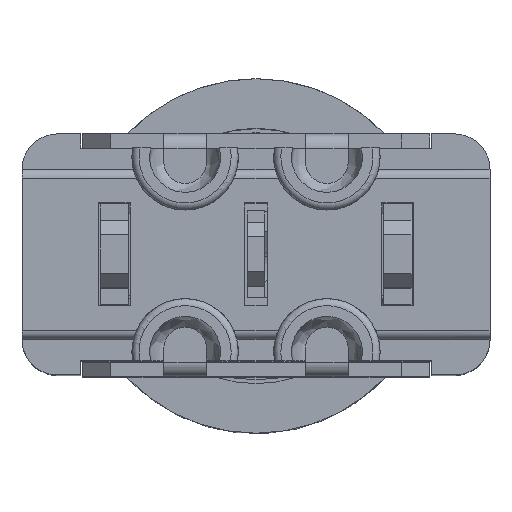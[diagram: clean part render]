
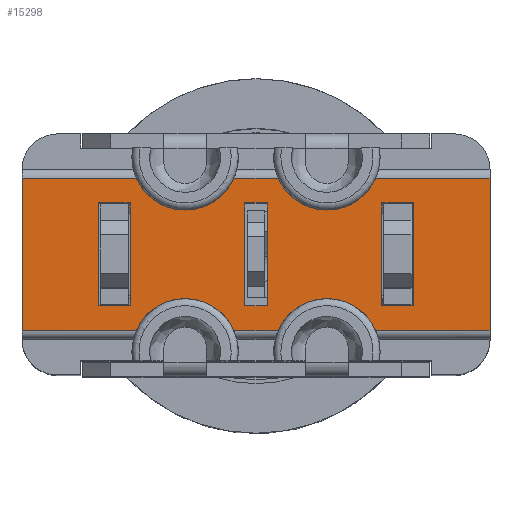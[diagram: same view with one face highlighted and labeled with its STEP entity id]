
A CAD part, top view. The second image highlights one B-rep face of the part: STEP entity #15298.
In plain terms, the highlighted planar face has unit normal (0, 0, 1).
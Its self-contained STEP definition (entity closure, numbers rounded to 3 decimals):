
#4874=DIRECTION('',(-1.,0.,0.));
#4875=VECTOR('',#4874,3.225);
#4876=CARTESIAN_POINT('',(3.225,-1.25,10.95));
#4877=LINE('',#4876,#4875);
#4878=CARTESIAN_POINT('',(4.6,-0.65,10.95));
#4879=DIRECTION('',(0.,0.,1.));
#4880=DIRECTION('',(-0.917,-0.4,0.));
#4881=AXIS2_PLACEMENT_3D('',#4878,#4879,#4880);
#4883=DIRECTION('',(-1.,0.,0.));
#4884=VECTOR('',#4883,1.25);
#4885=CARTESIAN_POINT('',(7.225,-1.25,10.95));
#4886=LINE('',#4885,#4884);
#4887=CARTESIAN_POINT('',(8.6,-0.65,10.95));
#4888=DIRECTION('',(0.,0.,1.));
#4889=DIRECTION('',(-0.917,-0.4,0.));
#4890=AXIS2_PLACEMENT_3D('',#4887,#4888,#4889);
#4892=DIRECTION('',(-1.,0.,0.));
#4893=VECTOR('',#4892,3.225);
#4894=CARTESIAN_POINT('',(13.2,-1.25,10.95));
#4895=LINE('',#4894,#4893);
#4896=DIRECTION('',(0.,1.,0.));
#4897=VECTOR('',#4896,4.3);
#4898=CARTESIAN_POINT('',(13.2,-5.55,10.95));
#4899=LINE('',#4898,#4897);
#4900=DIRECTION('',(1.,0.,0.));
#4901=VECTOR('',#4900,3.225);
#4902=CARTESIAN_POINT('',(9.975,-5.55,10.95));
#4903=LINE('',#4902,#4901);
#4904=CARTESIAN_POINT('',(8.6,-6.15,10.95));
#4905=DIRECTION('',(0.,0.,1.));
#4906=DIRECTION('',(0.917,0.4,0.));
#4907=AXIS2_PLACEMENT_3D('',#4904,#4905,#4906);
#4909=DIRECTION('',(1.,0.,0.));
#4910=VECTOR('',#4909,1.25);
#4911=CARTESIAN_POINT('',(5.975,-5.55,10.95));
#4912=LINE('',#4911,#4910);
#4913=CARTESIAN_POINT('',(4.6,-6.15,10.95));
#4914=DIRECTION('',(0.,0.,1.));
#4915=DIRECTION('',(0.917,0.4,0.));
#4916=AXIS2_PLACEMENT_3D('',#4913,#4914,#4915);
#4918=DIRECTION('',(1.,0.,0.));
#4919=VECTOR('',#4918,3.225);
#4920=CARTESIAN_POINT('',(0.,-5.55,10.95));
#4921=LINE('',#4920,#4919);
#4922=DIRECTION('',(0.,-1.,0.));
#4923=VECTOR('',#4922,4.3);
#4924=CARTESIAN_POINT('',(0.,-1.25,10.95));
#4925=LINE('',#4924,#4923);
#4926=DIRECTION('',(1.,0.,0.));
#4927=VECTOR('',#4926,0.9);
#4928=CARTESIAN_POINT('',(2.15,-4.85,10.95));
#4929=LINE('',#4928,#4927);
#4930=DIRECTION('',(0.,1.,0.));
#4931=VECTOR('',#4930,2.9);
#4932=CARTESIAN_POINT('',(3.05,-4.85,10.95));
#4933=LINE('',#4932,#4931);
#4934=DIRECTION('',(-1.,0.,0.));
#4935=VECTOR('',#4934,0.9);
#4936=CARTESIAN_POINT('',(3.05,-1.95,10.95));
#4937=LINE('',#4936,#4935);
#4938=DIRECTION('',(0.,-1.,0.));
#4939=VECTOR('',#4938,2.9);
#4940=CARTESIAN_POINT('',(2.15,-1.95,10.95));
#4941=LINE('',#4940,#4939);
#4942=DIRECTION('',(1.,0.,0.));
#4943=VECTOR('',#4942,0.63);
#4944=CARTESIAN_POINT('',(6.285,-4.85,10.95));
#4945=LINE('',#4944,#4943);
#4946=DIRECTION('',(0.,1.,0.));
#4947=VECTOR('',#4946,2.9);
#4948=CARTESIAN_POINT('',(6.915,-4.85,10.95));
#4949=LINE('',#4948,#4947);
#4950=DIRECTION('',(-1.,0.,0.));
#4951=VECTOR('',#4950,0.63);
#4952=CARTESIAN_POINT('',(6.915,-1.95,10.95));
#4953=LINE('',#4952,#4951);
#4954=DIRECTION('',(0.,-1.,0.));
#4955=VECTOR('',#4954,2.9);
#4956=CARTESIAN_POINT('',(6.285,-1.95,10.95));
#4957=LINE('',#4956,#4955);
#4958=DIRECTION('',(1.,0.,0.));
#4959=VECTOR('',#4958,0.9);
#4960=CARTESIAN_POINT('',(10.15,-4.85,10.95));
#4961=LINE('',#4960,#4959);
#4962=DIRECTION('',(0.,1.,0.));
#4963=VECTOR('',#4962,2.9);
#4964=CARTESIAN_POINT('',(11.05,-4.85,10.95));
#4965=LINE('',#4964,#4963);
#4966=DIRECTION('',(-1.,0.,0.));
#4967=VECTOR('',#4966,0.9);
#4968=CARTESIAN_POINT('',(11.05,-1.95,10.95));
#4969=LINE('',#4968,#4967);
#4970=DIRECTION('',(0.,-1.,0.));
#4971=VECTOR('',#4970,2.9);
#4972=CARTESIAN_POINT('',(10.15,-1.95,10.95));
#4973=LINE('',#4972,#4971);
#7624=CARTESIAN_POINT('',(2.15,-4.85,10.95));
#7625=CARTESIAN_POINT('',(3.05,-4.85,10.95));
#7626=VERTEX_POINT('',#7624);
#7627=VERTEX_POINT('',#7625);
#7628=CARTESIAN_POINT('',(3.05,-1.95,10.95));
#7629=VERTEX_POINT('',#7628);
#7630=CARTESIAN_POINT('',(2.15,-1.95,10.95));
#7631=VERTEX_POINT('',#7630);
#7632=CARTESIAN_POINT('',(6.285,-4.85,10.95));
#7633=CARTESIAN_POINT('',(6.915,-4.85,10.95));
#7634=VERTEX_POINT('',#7632);
#7635=VERTEX_POINT('',#7633);
#7636=CARTESIAN_POINT('',(6.915,-1.95,10.95));
#7637=VERTEX_POINT('',#7636);
#7638=CARTESIAN_POINT('',(6.285,-1.95,10.95));
#7639=VERTEX_POINT('',#7638);
#7640=CARTESIAN_POINT('',(10.15,-4.85,10.95));
#7641=CARTESIAN_POINT('',(11.05,-4.85,10.95));
#7642=VERTEX_POINT('',#7640);
#7643=VERTEX_POINT('',#7641);
#7644=CARTESIAN_POINT('',(11.05,-1.95,10.95));
#7645=VERTEX_POINT('',#7644);
#7646=CARTESIAN_POINT('',(10.15,-1.95,10.95));
#7647=VERTEX_POINT('',#7646);
#7984=CARTESIAN_POINT('',(0.,-1.25,10.95));
#7986=VERTEX_POINT('',#7984);
#7990=CARTESIAN_POINT('',(3.225,-1.25,10.95));
#7991=VERTEX_POINT('',#7990);
#7996=CARTESIAN_POINT('',(7.225,-1.25,10.95));
#7997=CARTESIAN_POINT('',(5.975,-1.25,10.95));
#7998=VERTEX_POINT('',#7996);
#7999=VERTEX_POINT('',#7997);
#8004=CARTESIAN_POINT('',(13.2,-1.25,10.95));
#8005=VERTEX_POINT('',#8004);
#8006=CARTESIAN_POINT('',(9.975,-1.25,10.95));
#8007=VERTEX_POINT('',#8006);
#8008=CARTESIAN_POINT('',(13.2,-5.55,10.95));
#8010=VERTEX_POINT('',#8008);
#8014=CARTESIAN_POINT('',(9.975,-5.55,10.95));
#8015=VERTEX_POINT('',#8014);
#8020=CARTESIAN_POINT('',(5.975,-5.55,10.95));
#8021=CARTESIAN_POINT('',(7.225,-5.55,10.95));
#8022=VERTEX_POINT('',#8020);
#8023=VERTEX_POINT('',#8021);
#8028=CARTESIAN_POINT('',(0.,-5.55,10.95));
#8029=VERTEX_POINT('',#8028);
#8030=CARTESIAN_POINT('',(3.225,-5.55,10.95));
#8031=VERTEX_POINT('',#8030);
#15239=CARTESIAN_POINT('',(0.,0.,10.95));
#15240=DIRECTION('',(0.,0.,1.));
#15241=DIRECTION('',(1.,0.,0.));
#15242=AXIS2_PLACEMENT_3D('',#15239,#15240,#15241);
#15243=PLANE('',#15242);
#15245=ORIENTED_EDGE('',*,*,#15244,.F.);
#15247=ORIENTED_EDGE('',*,*,#15246,.T.);
#15249=ORIENTED_EDGE('',*,*,#15248,.F.);
#15251=ORIENTED_EDGE('',*,*,#15250,.T.);
#15253=ORIENTED_EDGE('',*,*,#15252,.F.);
#15255=ORIENTED_EDGE('',*,*,#15254,.F.);
#15257=ORIENTED_EDGE('',*,*,#15256,.F.);
#15259=ORIENTED_EDGE('',*,*,#15258,.T.);
#15261=ORIENTED_EDGE('',*,*,#15260,.F.);
#15263=ORIENTED_EDGE('',*,*,#15262,.T.);
#15265=ORIENTED_EDGE('',*,*,#15264,.F.);
#15267=ORIENTED_EDGE('',*,*,#15266,.F.);
#15268=EDGE_LOOP('',(#15245,#15247,#15249,#15251,#15253,#15255,#15257,#15259,
#15261,#15263,#15265,#15267));
#15269=FACE_OUTER_BOUND('',#15268,.F.);
#15271=ORIENTED_EDGE('',*,*,#15270,.T.);
#15273=ORIENTED_EDGE('',*,*,#15272,.T.);
#15275=ORIENTED_EDGE('',*,*,#15274,.T.);
#15277=ORIENTED_EDGE('',*,*,#15276,.T.);
#15278=EDGE_LOOP('',(#15271,#15273,#15275,#15277));
#15279=FACE_BOUND('',#15278,.F.);
#15281=ORIENTED_EDGE('',*,*,#15280,.T.);
#15283=ORIENTED_EDGE('',*,*,#15282,.T.);
#15285=ORIENTED_EDGE('',*,*,#15284,.T.);
#15287=ORIENTED_EDGE('',*,*,#15286,.T.);
#15288=EDGE_LOOP('',(#15281,#15283,#15285,#15287));
#15289=FACE_BOUND('',#15288,.F.);
#15290=ORIENTED_EDGE('',*,*,#15173,.T.);
#15292=ORIENTED_EDGE('',*,*,#15291,.T.);
#15294=ORIENTED_EDGE('',*,*,#15293,.T.);
#15295=ORIENTED_EDGE('',*,*,#15232,.T.);
#15296=EDGE_LOOP('',(#15290,#15292,#15294,#15295));
#15297=FACE_BOUND('',#15296,.F.);
#4882=CIRCLE('',#4881,1.5);
#4891=CIRCLE('',#4890,1.5);
#4908=CIRCLE('',#4907,1.5);
#4917=CIRCLE('',#4916,1.5);
#15173=EDGE_CURVE('',#7642,#7643,#4961,.T.);
#15232=EDGE_CURVE('',#7647,#7642,#4973,.T.);
#15244=EDGE_CURVE('',#7991,#7986,#4877,.T.);
#15246=EDGE_CURVE('',#7991,#7999,#4882,.T.);
#15248=EDGE_CURVE('',#7998,#7999,#4886,.T.);
#15250=EDGE_CURVE('',#7998,#8007,#4891,.T.);
#15252=EDGE_CURVE('',#8005,#8007,#4895,.T.);
#15254=EDGE_CURVE('',#8010,#8005,#4899,.T.);
#15256=EDGE_CURVE('',#8015,#8010,#4903,.T.);
#15258=EDGE_CURVE('',#8015,#8023,#4908,.T.);
#15260=EDGE_CURVE('',#8022,#8023,#4912,.T.);
#15262=EDGE_CURVE('',#8022,#8031,#4917,.T.);
#15264=EDGE_CURVE('',#8029,#8031,#4921,.T.);
#15266=EDGE_CURVE('',#7986,#8029,#4925,.T.);
#15270=EDGE_CURVE('',#7626,#7627,#4929,.T.);
#15272=EDGE_CURVE('',#7627,#7629,#4933,.T.);
#15274=EDGE_CURVE('',#7629,#7631,#4937,.T.);
#15276=EDGE_CURVE('',#7631,#7626,#4941,.T.);
#15280=EDGE_CURVE('',#7634,#7635,#4945,.T.);
#15282=EDGE_CURVE('',#7635,#7637,#4949,.T.);
#15284=EDGE_CURVE('',#7637,#7639,#4953,.T.);
#15286=EDGE_CURVE('',#7639,#7634,#4957,.T.);
#15291=EDGE_CURVE('',#7643,#7645,#4965,.T.);
#15293=EDGE_CURVE('',#7645,#7647,#4969,.T.);
#15298=ADVANCED_FACE('',(#15269,#15279,#15289,#15297),#15243,.T.);
